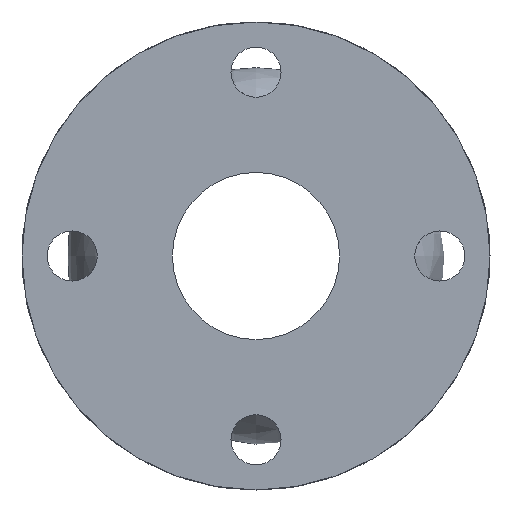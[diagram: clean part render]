
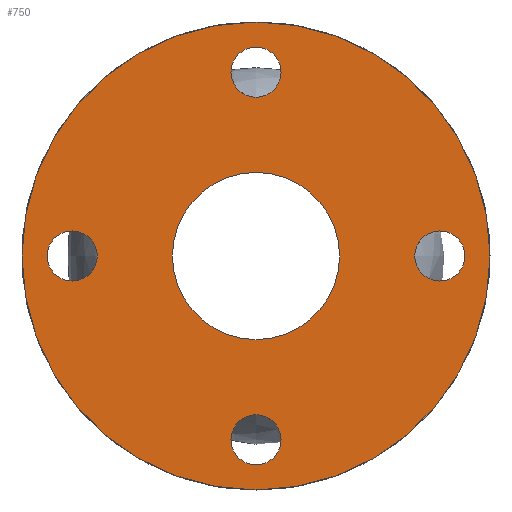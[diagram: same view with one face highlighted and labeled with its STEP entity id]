
A CAD part, left-side view. The second image highlights one B-rep face of the part: STEP entity #750.
In plain terms, the highlighted planar face has unit normal (-1, 0, 0).
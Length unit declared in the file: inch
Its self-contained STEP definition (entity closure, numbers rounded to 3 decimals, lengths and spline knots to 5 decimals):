
#135=CARTESIAN_POINT('',(-3.,3.125,0.));
#136=VERTEX_POINT('',#135);
#137=CARTESIAN_POINT('',(-3.,2.75,0.));
#138=DIRECTION('',(1.0,0.0,0.0));
#139=DIRECTION('',(0.0,-1.0,0.0));
#140=AXIS2_PLACEMENT_3D('',#137,#138,#139);
#141=CIRCLE('',#140,0.375);
#142=EDGE_CURVE('',#136,#136,#141,.T.);
#163=CARTESIAN_POINT('',(-3.,0.,-3.125));
#164=VERTEX_POINT('',#163);
#165=CARTESIAN_POINT('',(-3.,0.,-2.75));
#166=DIRECTION('',(1.0,0.0,0.0));
#167=DIRECTION('',(0.0,0.0,1.0));
#168=AXIS2_PLACEMENT_3D('',#165,#166,#167);
#169=CIRCLE('',#168,0.375);
#170=EDGE_CURVE('',#164,#164,#169,.T.);
#191=CARTESIAN_POINT('',(-3.,-3.125,0.));
#192=VERTEX_POINT('',#191);
#193=CARTESIAN_POINT('',(-3.,-2.75,0.));
#194=DIRECTION('',(1.0,0.0,0.0));
#195=DIRECTION('',(0.0,1.0,0.0));
#196=AXIS2_PLACEMENT_3D('',#193,#194,#195);
#197=CIRCLE('',#196,0.375);
#198=EDGE_CURVE('',#192,#192,#197,.T.);
#219=CARTESIAN_POINT('',(-3.,0.,3.125));
#220=VERTEX_POINT('',#219);
#221=CARTESIAN_POINT('',(-3.,0.0,2.75));
#222=DIRECTION('',(1.0,0.0,0.0));
#223=DIRECTION('',(0.0,0.0,-1.0));
#224=AXIS2_PLACEMENT_3D('',#221,#222,#223);
#225=CIRCLE('',#224,0.375);
#226=EDGE_CURVE('',#220,#220,#225,.T.);
#359=CARTESIAN_POINT('',(-3.,3.5,0.0));
#360=VERTEX_POINT('',#359);
#361=CARTESIAN_POINT('',(-3.,0.0,0.0));
#362=DIRECTION('',(1.0,0.0,0.0));
#363=DIRECTION('',(0.0,1.0,0.0));
#364=AXIS2_PLACEMENT_3D('',#361,#362,#363);
#365=CIRCLE('',#364,3.5);
#366=EDGE_CURVE('',#360,#360,#365,.T.);
#712=CARTESIAN_POINT('',(-3.,1.25,0.0));
#713=VERTEX_POINT('',#712);
#714=CARTESIAN_POINT('',(-3.,0.0,0.0));
#715=DIRECTION('',(1.0,0.0,0.0));
#716=DIRECTION('',(0.0,1.0,0.0));
#717=AXIS2_PLACEMENT_3D('',#714,#715,#716);
#718=CIRCLE('',#717,1.25);
#719=EDGE_CURVE('',#713,#713,#718,.T.);
#727=CARTESIAN_POINT('',(-3.,2.375,0.0));
#728=DIRECTION('',(-1.0,0.0,0.0));
#729=DIRECTION('',(0.0,0.0,1.0));
#730=AXIS2_PLACEMENT_3D('',#727,#728,#729);
#731=PLANE('',#730);
#732=ORIENTED_EDGE('',*,*,#366,.F.);
#733=EDGE_LOOP('',(#732));
#734=FACE_OUTER_BOUND('',#733,.T.);
#735=ORIENTED_EDGE('',*,*,#142,.T.);
#736=EDGE_LOOP('',(#735));
#737=FACE_BOUND('',#736,.T.);
#738=ORIENTED_EDGE('',*,*,#170,.T.);
#739=EDGE_LOOP('',(#738));
#740=FACE_BOUND('',#739,.T.);
#741=ORIENTED_EDGE('',*,*,#198,.T.);
#742=EDGE_LOOP('',(#741));
#743=FACE_BOUND('',#742,.T.);
#744=ORIENTED_EDGE('',*,*,#226,.T.);
#745=EDGE_LOOP('',(#744));
#746=FACE_BOUND('',#745,.T.);
#747=ORIENTED_EDGE('',*,*,#719,.T.);
#748=EDGE_LOOP('',(#747));
#749=FACE_BOUND('',#748,.T.);
#750=ADVANCED_FACE('',(#734,#737,#740,#743,#746,#749),#731,.T.);
